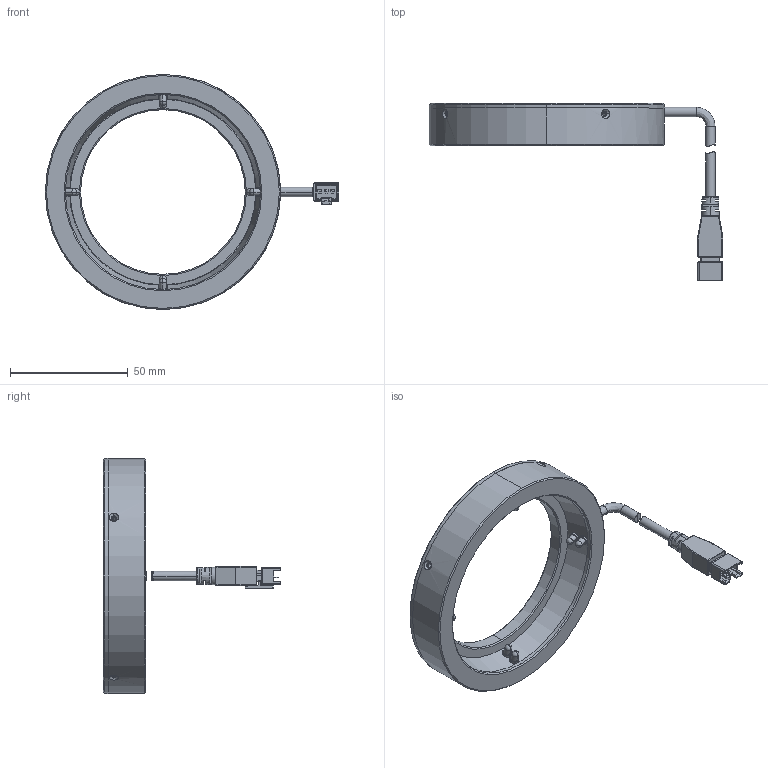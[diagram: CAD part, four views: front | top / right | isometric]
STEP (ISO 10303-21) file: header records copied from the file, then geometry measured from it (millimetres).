
FILE_DESCRIPTION (( 'STEP AP203' ), '1' );
FILE_NAME ('CRT-RL10015-¼òÒ×3DÍ¼.STEP', '2021-12-18T07:04:53', ( 'Admin' ), ( '' ), 'SwSTEP 2.0', 'SolidWorks 2018', '' );
FILE_SCHEMA (( 'CONFIG_CONTROL_DESIGN' ));
Length unit declared in the file: millimetre
Products named in the file (1): CRT-RL10015-潠眢3D芞
Bounding box: 124.75 x 75.45 x 100 mm (x, y, z)
Surface area: 26464.3 mm2 (no closed solid volume)
Topology: 0 solids, 5 shells, 314 faces, 908 edges, 568 vertices
Faces by surface type: cylinder 126, plane 124, bspline 26, cone 22, sphere 16
Entity records: 11751 total; most frequent: CARTESIAN_POINT 3826, DIRECTION 1638, ORIENTED_EDGE 1565, EDGE_CURVE 866, AXIS2_PLACEMENT_3D 581, VERTEX_POINT 552, VECTOR 476, LINE 476
